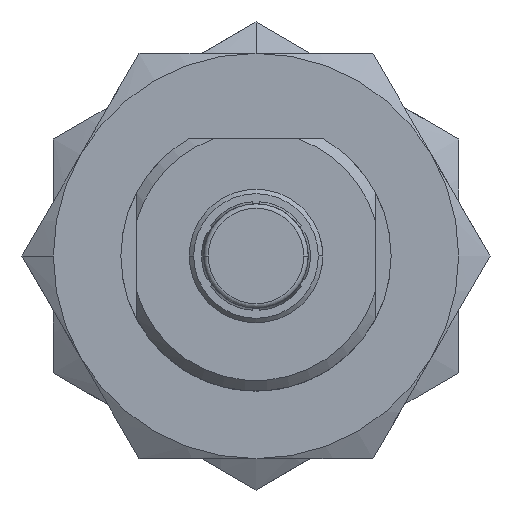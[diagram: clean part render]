
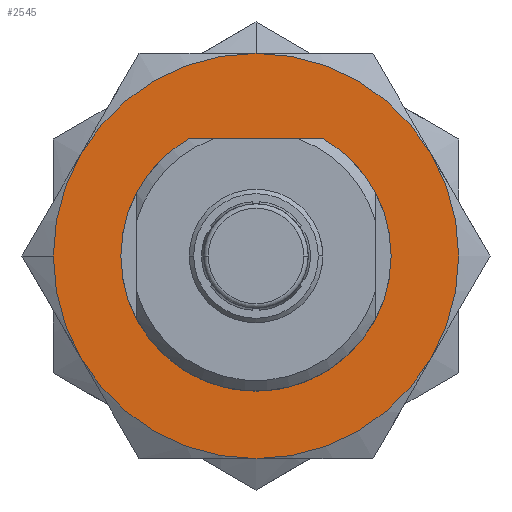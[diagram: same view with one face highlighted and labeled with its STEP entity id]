
A CAD part, front view. The second image highlights one B-rep face of the part: STEP entity #2545.
In plain terms, the highlighted planar face has unit normal (0, -1, 0).
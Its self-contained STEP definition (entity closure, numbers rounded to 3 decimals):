
#86=CARTESIAN_POINT('',(-11.691,-3.2,-6.75));
#236=CARTESIAN_POINT('',(11.691,-3.2,-6.75));
#323=CARTESIAN_POINT('',(0.,-3.2,-13.5));
#368=CARTESIAN_POINT('',(0.,-3.2,0.));
#369=DIRECTION('',(0.,-1.,0.));
#370=DIRECTION('',(0.,0.,-1.));
#371=AXIS2_PLACEMENT_3D('',#368,#369,#370);
#376=CARTESIAN_POINT('',(0.,-3.2,0.));
#377=DIRECTION('',(0.,-1.,0.));
#378=DIRECTION('',(-0.866,0.,-0.5));
#379=AXIS2_PLACEMENT_3D('',#376,#377,#378);
#384=CARTESIAN_POINT('',(0.,-3.2,0.));
#385=DIRECTION('',(0.,-1.,0.));
#386=DIRECTION('',(-1.,0.,0.));
#387=AXIS2_PLACEMENT_3D('',#384,#385,#386);
#392=CARTESIAN_POINT('',(0.,-3.2,0.));
#393=DIRECTION('',(0.,-1.,0.));
#394=DIRECTION('',(-0.866,0.,0.5));
#395=AXIS2_PLACEMENT_3D('',#392,#393,#394);
#400=CARTESIAN_POINT('',(0.,-3.2,0.));
#401=DIRECTION('',(0.,-1.,0.));
#402=DIRECTION('',(0.,0.,1.));
#403=AXIS2_PLACEMENT_3D('',#400,#401,#402);
#408=CARTESIAN_POINT('',(0.,-3.2,0.));
#409=DIRECTION('',(0.,-1.,0.));
#410=DIRECTION('',(0.866,0.,0.5));
#411=AXIS2_PLACEMENT_3D('',#408,#409,#410);
#416=DIRECTION('',(1.,0.,0.));
#417=VECTOR('',#416,8.98);
#418=CARTESIAN_POINT('',(-4.49,-3.2,7.8));
#419=LINE('',#418,#417);
#423=CARTESIAN_POINT('',(0.,-3.2,0.));
#424=DIRECTION('',(0.,-1.,0.));
#425=DIRECTION('',(0.866,0.,-0.5));
#426=AXIS2_PLACEMENT_3D('',#423,#424,#425);
#473=CARTESIAN_POINT('',(11.691,-3.2,6.75));
#560=CARTESIAN_POINT('',(0.,-3.2,13.5));
#647=CARTESIAN_POINT('',(-11.691,-3.2,6.75));
#736=CARTESIAN_POINT('',(0.,-3.2,0.));
#737=DIRECTION('',(0.,1.,0.));
#738=DIRECTION('',(0.499,0.,0.867));
#739=AXIS2_PLACEMENT_3D('',#736,#737,#738);
#2355=VERTEX_POINT('',#473);
#2356=VERTEX_POINT('',#560);
#2357=VERTEX_POINT('',#236);
#2358=VERTEX_POINT('',#323);
#2359=VERTEX_POINT('',#647);
#2360=VERTEX_POINT('',#86);
#2361=CARTESIAN_POINT('',(-13.5,-3.2,0.));
#2362=VERTEX_POINT('',#2361);
#2367=CARTESIAN_POINT('',(-4.49,-3.2,7.8));
#2368=VERTEX_POINT('',#2367);
#2369=CARTESIAN_POINT('',(4.49,-3.2,7.8));
#2370=VERTEX_POINT('',#2369);
#2519=CARTESIAN_POINT('',(0.,-3.2,0.));
#2520=DIRECTION('',(0.,-1.,0.));
#2521=DIRECTION('',(0.,0.,1.));
#2522=AXIS2_PLACEMENT_3D('',#2519,#2520,#2521);
#2523=PLANE('',#2522);
#2525=ORIENTED_EDGE('',*,*,#2524,.F.);
#2527=ORIENTED_EDGE('',*,*,#2526,.F.);
#2528=ORIENTED_EDGE('',*,*,#2514,.F.);
#2530=ORIENTED_EDGE('',*,*,#2529,.F.);
#2532=ORIENTED_EDGE('',*,*,#2531,.F.);
#2534=ORIENTED_EDGE('',*,*,#2533,.F.);
#2536=ORIENTED_EDGE('',*,*,#2535,.F.);
#2537=EDGE_LOOP('',(#2525,#2527,#2528,#2530,#2532,#2534,#2536));
#2538=FACE_OUTER_BOUND('',#2537,.F.);
#2540=ORIENTED_EDGE('',*,*,#2539,.F.);
#2542=ORIENTED_EDGE('',*,*,#2541,.F.);
#2543=EDGE_LOOP('',(#2540,#2542));
#2544=FACE_BOUND('',#2543,.F.);
#372=CIRCLE('',#371,13.5);
#380=CIRCLE('',#379,13.5);
#388=CIRCLE('',#387,13.5);
#396=CIRCLE('',#395,13.5);
#404=CIRCLE('',#403,13.5);
#412=CIRCLE('',#411,13.5);
#427=CIRCLE('',#426,13.5);
#740=CIRCLE('',#739,9.);
#2514=EDGE_CURVE('',#2360,#2358,#380,.T.);
#2524=EDGE_CURVE('',#2357,#2355,#427,.T.);
#2526=EDGE_CURVE('',#2358,#2357,#372,.T.);
#2529=EDGE_CURVE('',#2362,#2360,#388,.T.);
#2531=EDGE_CURVE('',#2359,#2362,#396,.T.);
#2533=EDGE_CURVE('',#2356,#2359,#404,.T.);
#2535=EDGE_CURVE('',#2355,#2356,#412,.T.);
#2539=EDGE_CURVE('',#2368,#2370,#419,.T.);
#2541=EDGE_CURVE('',#2370,#2368,#740,.T.);
#2545=ADVANCED_FACE('',(#2538,#2544),#2523,.T.);
